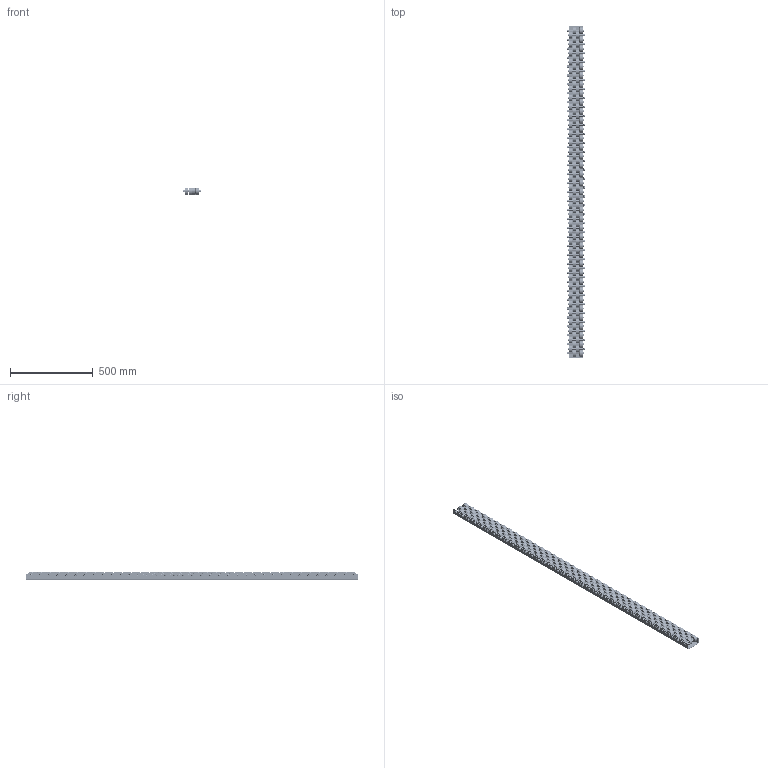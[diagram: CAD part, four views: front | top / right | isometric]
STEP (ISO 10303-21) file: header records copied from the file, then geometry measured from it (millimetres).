
FILE_DESCRIPTION(/* description */ ('Unknown'),/* implementation_level */ '2;1');
FILE_NAME(/* name */ 'Listwa T686',/* time_stamp */ '2022-11-30T10:31:25+01:00',/* author */ ('Unknown'),/* organization */ ('Unknown'),/* preprocessor_version */ 'ST-DEVELOPER v16.7',/* originating_system */ 'Solid Edge',/* authorisation */ 'Unknown');
FILE_SCHEMA (('AUTOMOTIVE_DESIGN {1 0 10303 214 3 1 1}'));
Length unit declared in the file: millimetre
Products named in the file (7): 1540-02-00_956; 1540-00-01; Bolt_DIN_931_M8x100_14.00; Nut_DIN_980_M8_v10.50; Rolka fi 42; Tulejka fi8_30mm; Tulejka fi8_21mm
Assembly tree (439 placements, depth 2):
  1540-02-00_956
    1540-00-01
    Bolt_DIN_931_M8x100_14.00  x73
    Nut_DIN_980_M8_v10.50  x73
    Rolka fi 42  x146
    Tulejka fi8_30mm  x73
    Tulejka fi8_21mm  x73
Bounding box: 110 x 2000 x 51 mm (x, y, z)
Volume: 4022196.7 mm3; surface area: 2280916.1 mm2
Topology: 439 solids, 439 shells, 11921 faces, 30071 edges, 19758 vertices
Faces by surface type: plane 8332, cylinder 1910, cone 1095, torus 584
Full cylindrical faces by diameter (mm): 6.466 x73, 6.647 x73, 6.697 x73, 8 x146, 8.2 x154, 8.3 x292, 8.4 x73, 10.2 x146, 11.63 x73, 12.5 x73, 14 x292, 30 x146, 32 x146, 42 x146
Entity records: 12333 total; most frequent: DIRECTION 2376, CARTESIAN_POINT 1895, ORIENTED_EDGE 1140, AXIS2_PLACEMENT_3D 1125, EDGE_LOOP 782, FACE_BOUND 782, EDGE_CURVE 570, VERTEX_POINT 494
